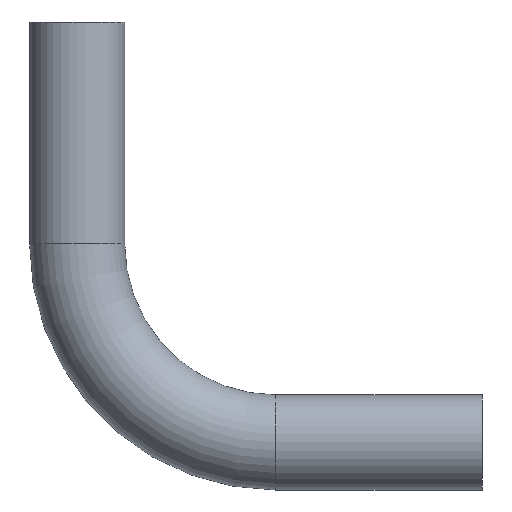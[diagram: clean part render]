
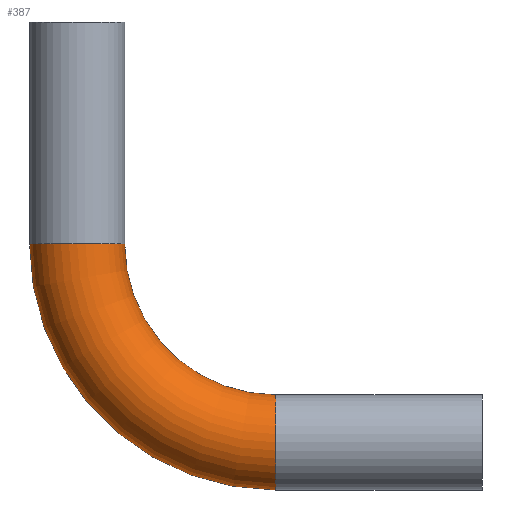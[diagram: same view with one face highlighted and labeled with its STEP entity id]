
A CAD part, top view. The second image highlights one B-rep face of the part: STEP entity #387.
In plain terms, the highlighted toroidal (fillet/blend) face has major radius 131.5 mm and minor radius 31.5 mm.
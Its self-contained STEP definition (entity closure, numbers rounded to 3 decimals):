
#65 = CARTESIAN_POINT ( 'NONE',  ( -237., 131.5, 0. ) ) ;
#67 = DIRECTION ( 'NONE',  ( 0., 0., -1. ) ) ;
#68 = DIRECTION ( 'NONE',  ( 1., 0., 0. ) ) ;
#69 = CARTESIAN_POINT ( 'NONE',  ( -137., 0., 0. ) ) ;
#73 = DIRECTION ( 'NONE',  ( -1., 0., 0. ) ) ;
#74 = DIRECTION ( 'NONE',  ( 0., 0., -1. ) ) ;
#75 = CARTESIAN_POINT ( 'NONE',  ( -137., 131.5, 0. ) ) ;
#83 = DIRECTION ( 'NONE',  ( -1., 0., 0. ) ) ;
#84 = DIRECTION ( 'NONE',  ( 0., 0., -1. ) ) ;
#85 = CARTESIAN_POINT ( 'NONE',  ( -137., 131.5, 0. ) ) ;
#90 = CARTESIAN_POINT ( 'NONE',  ( -137., 31.5, 0. ) ) ;
#113 = AXIS2_PLACEMENT_3D ( 'NONE', #69, #68, #67 ) ;
#115 = DIRECTION ( 'NONE',  ( 0., -1., 0. ) ) ;
#157 = DIRECTION ( 'NONE',  ( 0., 0., -1. ) ) ;
#159 = CARTESIAN_POINT ( 'NONE',  ( -268.5, 131.5, 0. ) ) ;
#186 = CIRCLE ( 'NONE', #193, 163. ) ;
#192 = CIRCLE ( 'NONE', #113, 31.5 ) ;
#193 = AXIS2_PLACEMENT_3D ( 'NONE', #85, #84, #83 ) ;
#194 = CIRCLE ( 'NONE', #197, 100. ) ;
#197 = AXIS2_PLACEMENT_3D ( 'NONE', #75, #74, #73 ) ;
#213 = VERTEX_POINT ( 'NONE', #254 ) ;
#216 = VERTEX_POINT ( 'NONE', #253 ) ;
#218 = VERTEX_POINT ( 'NONE', #90 ) ;
#223 = VERTEX_POINT ( 'NONE', #65 ) ;
#237 = EDGE_LOOP ( 'NONE', ( #271, #270, #269, #268 ) ) ;
#253 = CARTESIAN_POINT ( 'NONE',  ( -137., -31.5, 0. ) ) ;
#254 = CARTESIAN_POINT ( 'NONE',  ( -300., 131.5, 0. ) ) ;
#268 = ORIENTED_EDGE ( 'NONE', *, *, #372, .T. ) ;
#269 = ORIENTED_EDGE ( 'NONE', *, *, #357, .T. ) ;
#270 = ORIENTED_EDGE ( 'NONE', *, *, #358, .F. ) ;
#271 = ORIENTED_EDGE ( 'NONE', *, *, #355, .F. ) ;
#312 = TOROIDAL_SURFACE ( 'NONE', #315, 131.5, 31.5 ) ;
#315 = AXIS2_PLACEMENT_3D ( 'NONE', #400, #401, #402 ) ;
#319 = CIRCLE ( 'NONE', #320, 31.5 ) ;
#320 = AXIS2_PLACEMENT_3D ( 'NONE', #159, #115, #157 ) ;
#355 = EDGE_CURVE ( 'NONE', #216, #213, #186, .T. ) ;
#357 = EDGE_CURVE ( 'NONE', #218, #223, #194, .T. ) ;
#358 = EDGE_CURVE ( 'NONE', #218, #216, #192, .T. ) ;
#372 = EDGE_CURVE ( 'NONE', #223, #213, #319, .T. ) ;
#387 = ADVANCED_FACE ( 'NONE', ( #399 ), #312, .T. ) ;
#399 = FACE_OUTER_BOUND ( 'NONE', #237, .T. ) ;
#400 = CARTESIAN_POINT ( 'NONE',  ( -137., 131.5, 0. ) ) ;
#401 = DIRECTION ( 'NONE',  ( 0., 0., -1. ) ) ;
#402 = DIRECTION ( 'NONE',  ( -1., 0., 0. ) ) ;
